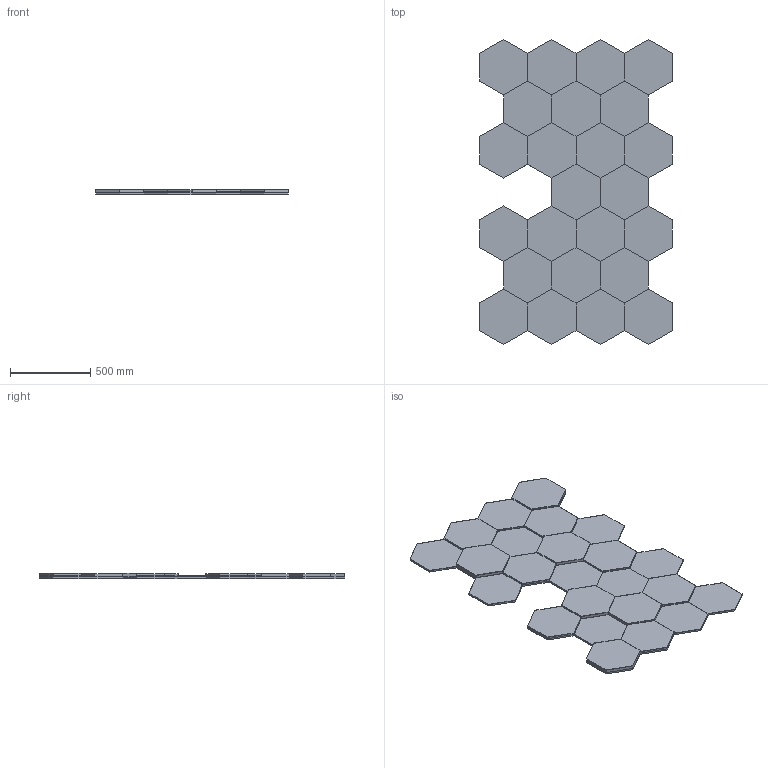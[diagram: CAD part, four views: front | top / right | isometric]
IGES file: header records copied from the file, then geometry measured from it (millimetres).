
Start section: SolidWorks IGES file using analytic representation for surfaces
Global section: file name: \\192.168.0.53\Reserch Development\SITO WEB\2024\FFG26A~6\Prodotti\3D\De Castelli - 3D - Filigrana.IGS; native system: SolidWorks 2025; preprocessor: SolidWorks 2025; author: lauraa; date: 260130.171229; units: millimetre
Bounding box: 1200.02 x 1905.27 x 32 mm (x, y, z)
Surface area: 8053021.8 mm2 (no closed solid volume)
Topology: 0 solids, 0 shells, 230 faces, 1108 edges, 1108 vertices
Faces by surface type: bspline 230
